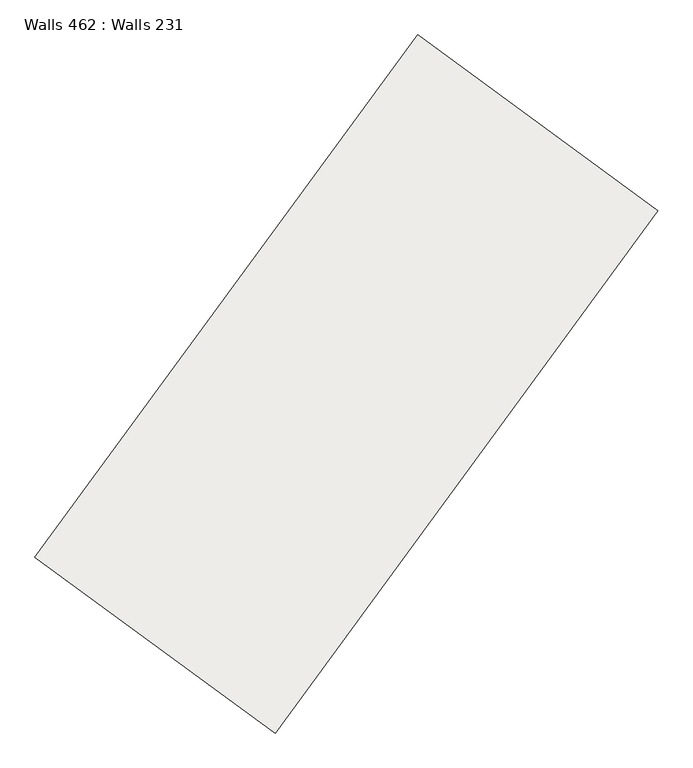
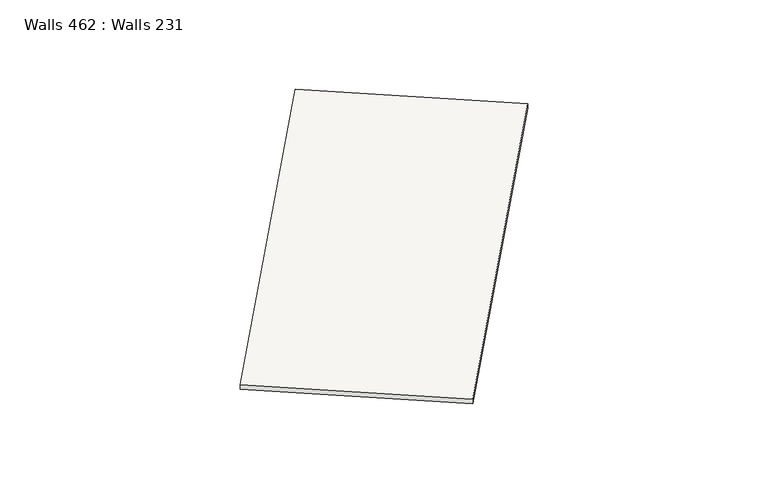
"""IFC4 building model written with IfcOpenShell, lengths in millimetres: slab geometry, Walls 462 : Walls 231."""

from ifc_helpers import new_model, si_unit, frame, origin, place, context, project, spatial, polyline, outline, extrude, source, transform, mapped, element, save


def walls_462_walls_231_d99e0bde(model_context):
    return source(origin(), model_context, "Body", "SweptSolid", [
        extrude(outline(polyline([(-50.0, 0.0), (50.0, 0.0), (-62.3, -8700.0000007), (-162.3, -8700.0000007), (-50.0, 0.0)])), frame((439835.0015829, 318476.487863, 645761.4), z_axis=(-0.8067016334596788, 0.5909589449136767, 0.0), x_axis=(0.0, 0.0, 1.0)), (0.0, 0.0, 1.0), 4000.0),
    ])


if __name__ == "__main__":
    model = new_model("IFC4")
    model_context = context("Model", 3, world=origin())
    ifc_project = project(units=[si_unit("LENGTHUNIT", "METRE", prefix="MILLI")], contexts=[model_context])
    site = spatial("IfcSite", under=ifc_project)
    building = spatial("IfcBuilding", under=site)
    placement = place(None, origin())
    walls_462_walls_231_shape = walls_462_walls_231_d99e0bde(model_context)
    element("IfcSlab", 1, ObjectType="Walls 462 : Walls 231", at=placement, inside=building, context=model_context, shape_type="MappedRepresentation", body=[
        mapped(walls_462_walls_231_shape, transform((0.0, 0.0, 0.0), x_axis=(1.0, 0.0, 0.0), y_axis=(0.0, 1.0, 0.0), z_axis=(0.0, 0.0, 1.0))),
    ])
    save(model, "model.ifc")
